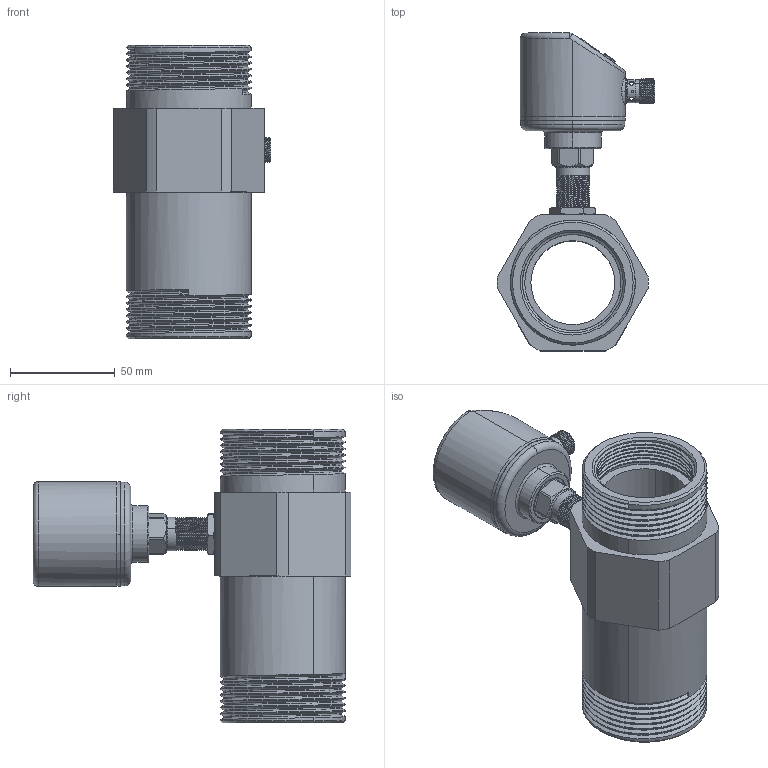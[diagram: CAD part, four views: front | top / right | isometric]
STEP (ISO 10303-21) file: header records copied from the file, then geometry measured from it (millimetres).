
FILE_DESCRIPTION (( 'STEP AP214' ), '1' );
FILE_NAME ('BFW2M40.STEP', '2025-12-18T08:11:50', ( '' ), ( '' ), 'SwSTEP 2.0', 'SolidWorks 2023', '' );
FILE_SCHEMA (( 'AUTOMOTIVE_DESIGN' ));
Length unit declared in the file: millimetre
Products named in the file (10): 涡轮探头5; DN40; BFW2M40; 压力显示罩; 压力上盖; 探头外螺纹G1-4; 按键帽; 防水接头壳体1; M16螺母; PVC密封垫
Assembly tree (11 placements, depth 2):
  BFW2M40
    压力上盖
    压力显示罩
    防水接头壳体1
    按键帽  x3
    PVC密封垫
    探头外螺纹G1-4
    涡轮探头5
    DN40
    M16螺母
Bounding box: 74.99 x 151.5 x 140 mm (x, y, z)
Volume: 250996.1 mm3; surface area: 90860.5 mm2
Topology: 11 solids, 11 shells, 709 faces, 1746 edges, 1104 vertices
Faces by surface type: cylinder 361, plane 169, cone 118, bspline 35, torus 22, sphere 4
Entity records: 33511 total; most frequent: CARTESIAN_POINT 18213, ORIENTED_EDGE 3320, DIRECTION 2989, EDGE_CURVE 1660, AXIS2_PLACEMENT_3D 1147, VERTEX_POINT 1058, EDGE_LOOP 754, LINE 695
